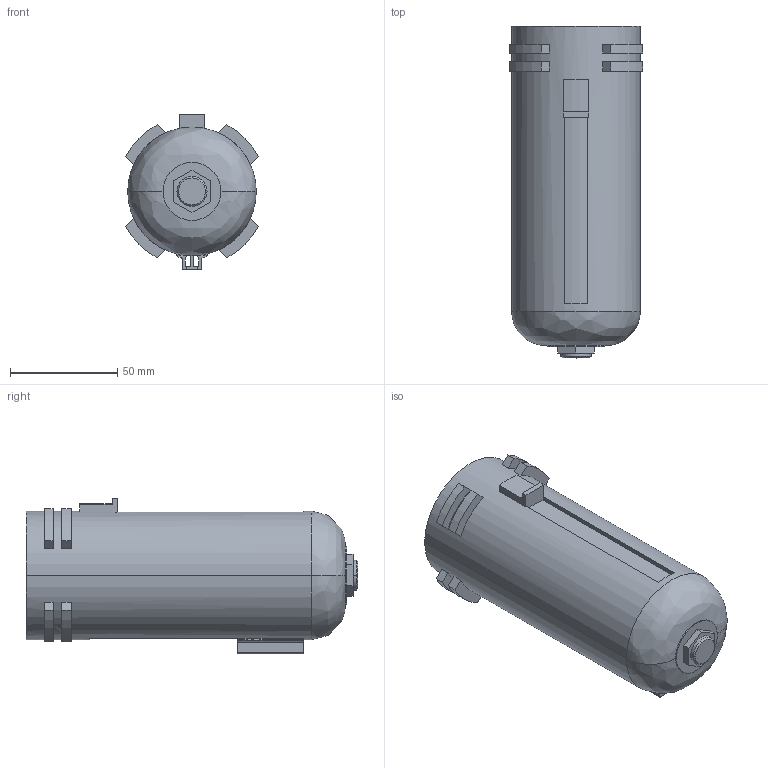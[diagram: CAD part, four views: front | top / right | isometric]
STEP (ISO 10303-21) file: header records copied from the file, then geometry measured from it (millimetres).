
FILE_DESCRIPTION((''),'2;1');
FILE_NAME('R412009351','2018-02-01T',('tng2hc'),(''),'CREO PARAMETRIC BY PTC INC, 2016260','CREO PARAMETRIC BY PTC INC, 2016260','');
FILE_SCHEMA(('CONFIG_CONTROL_DESIGN'));
Length unit declared in the file: millimetre
Products named in the file (1): R412009351
Bounding box: 62.07 x 154.8 x 72.55 mm (x, y, z)
Volume: 414811.8 mm3; surface area: 38122.2 mm2
Topology: 1 solids, 1 shells, 140 faces, 391 edges, 256 vertices
Faces by surface type: plane 101, cylinder 35, cone 2, bspline 2
Entity records: 4629 total; most frequent: CARTESIAN_POINT 864, ORIENTED_EDGE 782, DIRECTION 774, EDGE_CURVE 391, VECTOR 266, LINE 266, VERTEX_POINT 256, AXIS2_PLACEMENT_3D 254
